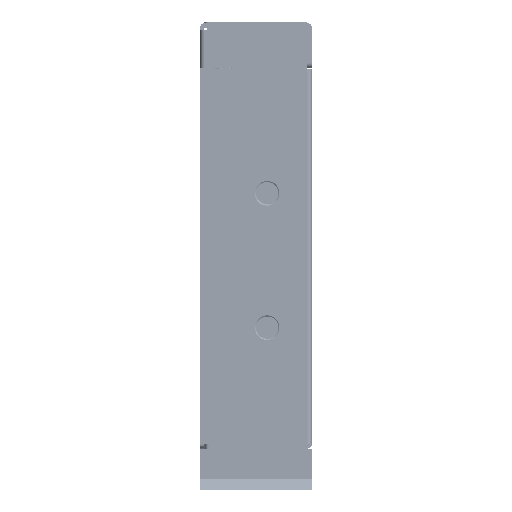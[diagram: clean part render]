
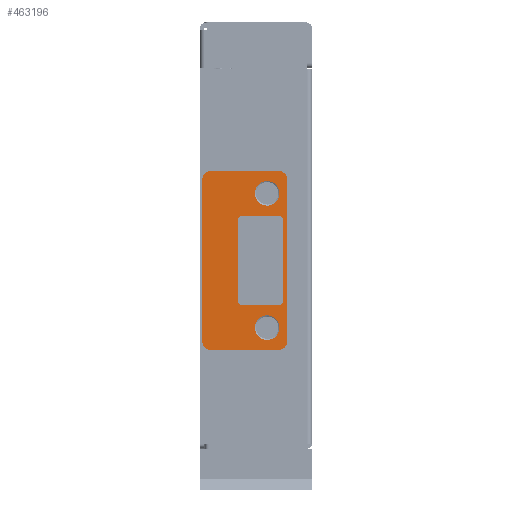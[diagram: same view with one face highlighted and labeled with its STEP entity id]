
A CAD part, front view. The second image highlights one B-rep face of the part: STEP entity #463196.
In plain terms, the highlighted planar face has unit normal (0, -1, 0) as drawn and (0, 0, 1) by its records, which use the part's own axes.
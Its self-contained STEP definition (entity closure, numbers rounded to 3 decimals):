
#117 = AXIS2_PLACEMENT_3D ( 'NONE', #88050, #365674, #202806 ) ;
#10916 = DIRECTION ( 'NONE',  ( 0., 0., 1. ) ) ;
#15012 = EDGE_CURVE ( 'NONE', #707083, #476041, #258553, .T. ) ;
#22919 = ORIENTED_EDGE ( 'NONE', *, *, #244996, .T. ) ;
#26027 = CARTESIAN_POINT ( 'NONE',  ( 2., 17., 0.8 ) ) ;
#27660 = AXIS2_PLACEMENT_3D ( 'NONE', #662685, #215545, #367458 ) ;
#33598 = VECTOR ( 'NONE', #682688, 1000. ) ;
#40644 = AXIS2_PLACEMENT_3D ( 'NONE', #43470, #365702, #590934 ) ;
#40957 = VECTOR ( 'NONE', #305702, 1000. ) ;
#43470 = CARTESIAN_POINT ( 'NONE',  ( 35., 14.5, 0.8 ) ) ;
#45511 = DIRECTION ( 'NONE',  ( 1., 0., 0. ) ) ;
#46076 = VERTEX_POINT ( 'NONE', #258285 ) ;
#47215 = CARTESIAN_POINT ( 'NONE',  ( 32.25, 14.5, 0.8 ) ) ;
#59556 = DIRECTION ( 'NONE',  ( 0., 0., 1. ) ) ;
#62990 = AXIS2_PLACEMENT_3D ( 'NONE', #26027, #473581, #137047 ) ;
#64138 = AXIS2_PLACEMENT_3D ( 'NONE', #264272, #260624, #604139 ) ;
#64777 = ORIENTED_EDGE ( 'NONE', *, *, #237102, .F. ) ;
#72363 = CARTESIAN_POINT ( 'NONE',  ( 2., 19., 0.8 ) ) ;
#81652 = AXIS2_PLACEMENT_3D ( 'NONE', #671808, #564685, #398464 ) ;
#86364 = CIRCLE ( 'NONE', #275471, 2. ) ;
#88050 = CARTESIAN_POINT ( 'NONE',  ( 2., 2., 0.8 ) ) ;
#92568 = CARTESIAN_POINT ( 'NONE',  ( 2., 0., 0.8 ) ) ;
#109904 = LINE ( 'NONE', #512861, #33598 ) ;
#110564 = CIRCLE ( 'NONE', #27660, 2.75 ) ;
#123076 = AXIS2_PLACEMENT_3D ( 'NONE', #510677, #59556, #296160 ) ;
#123547 = CIRCLE ( 'NONE', #40644, 2.75 ) ;
#128102 = EDGE_CURVE ( 'NONE', #285777, #220700, #359201, .T. ) ;
#134759 = CIRCLE ( 'NONE', #64138, 2. ) ;
#137047 = DIRECTION ( 'NONE',  ( -1., 0., 0. ) ) ;
#141797 = ORIENTED_EDGE ( 'NONE', *, *, #332418, .T. ) ;
#177594 = CARTESIAN_POINT ( 'NONE',  ( 2., 2., 0.8 ) ) ;
#189044 = DIRECTION ( 'NONE',  ( 0., -1., 0. ) ) ;
#194104 = VERTEX_POINT ( 'NONE', #249356 ) ;
#195494 = CARTESIAN_POINT ( 'NONE',  ( 37.75, 14.5, 0.8 ) ) ;
#198167 = ORIENTED_EDGE ( 'NONE', *, *, #331561, .T. ) ;
#201884 = EDGE_CURVE ( 'NONE', #367527, #707083, #109904, .T. ) ;
#202806 = DIRECTION ( 'NONE',  ( 0., -1., 0. ) ) ;
#202965 = LINE ( 'NONE', #598349, #565501 ) ;
#215545 = DIRECTION ( 'NONE',  ( 0., 0., 1. ) ) ;
#220700 = VERTEX_POINT ( 'NONE', #509956 ) ;
#221521 = VERTEX_POINT ( 'NONE', #195494 ) ;
#228905 = VERTEX_POINT ( 'NONE', #92568 ) ;
#237102 = EDGE_CURVE ( 'NONE', #194104, #46076, #583868, .T. ) ;
#244996 = EDGE_CURVE ( 'NONE', #476041, #675870, #202965, .T. ) ;
#249356 = CARTESIAN_POINT ( 'NONE',  ( 2.25, 14.5, 0.8 ) ) ;
#258285 = CARTESIAN_POINT ( 'NONE',  ( 7.75, 14.5, 0.8 ) ) ;
#258553 = CIRCLE ( 'NONE', #81652, 2. ) ;
#260624 = DIRECTION ( 'NONE',  ( 0., 0., 1. ) ) ;
#264272 = CARTESIAN_POINT ( 'NONE',  ( 38., 2., 0.8 ) ) ;
#275471 = AXIS2_PLACEMENT_3D ( 'NONE', #177594, #10916, #514002 ) ;
#285777 = VERTEX_POINT ( 'NONE', #522706 ) ;
#294922 = ORIENTED_EDGE ( 'NONE', *, *, #201884, .T. ) ;
#296160 = DIRECTION ( 'NONE',  ( 1., 0., 0. ) ) ;
#305702 = DIRECTION ( 'NONE',  ( 1., 0., 0. ) ) ;
#312110 = CIRCLE ( 'NONE', #724991, 2.75 ) ;
#321258 = DIRECTION ( 'NONE',  ( -1., 0., 0. ) ) ;
#323730 = EDGE_CURVE ( 'NONE', #46076, #194104, #312110, .T. ) ;
#331561 = EDGE_CURVE ( 'NONE', #228905, #338861, #420290, .T. ) ;
#332418 = EDGE_CURVE ( 'NONE', #675870, #285777, #665098, .T. ) ;
#337684 = ORIENTED_EDGE ( 'NONE', *, *, #513922, .T. ) ;
#337790 = DIRECTION ( 'NONE',  ( 0., 0., 1. ) ) ;
#338861 = VERTEX_POINT ( 'NONE', #551180 ) ;
#341734 = ORIENTED_EDGE ( 'NONE', *, *, #601900, .T. ) ;
#359201 = LINE ( 'NONE', #466363, #574638 ) ;
#365674 = DIRECTION ( 'NONE',  ( 0., 0., -1. ) ) ;
#365702 = DIRECTION ( 'NONE',  ( 0., 0., 1. ) ) ;
#366706 = ORIENTED_EDGE ( 'NONE', *, *, #705520, .F. ) ;
#367458 = DIRECTION ( 'NONE',  ( 1., 0., 0. ) ) ;
#367527 = VERTEX_POINT ( 'NONE', #473844 ) ;
#379533 = EDGE_LOOP ( 'NONE', ( #341734, #198167, #337684, #294922, #391489, #22919, #141797, #663562 ) ) ;
#382084 = EDGE_LOOP ( 'NONE', ( #366706, #672683 ) ) ;
#391489 = ORIENTED_EDGE ( 'NONE', *, *, #15012, .T. ) ;
#398464 = DIRECTION ( 'NONE',  ( -1., 0., 0. ) ) ;
#409316 = CARTESIAN_POINT ( 'NONE',  ( 40., 17., 0.8 ) ) ;
#420290 = LINE ( 'NONE', #693705, #40957 ) ;
#455569 = ORIENTED_EDGE ( 'NONE', *, *, #323730, .F. ) ;
#463196 = ADVANCED_FACE ( 'NONE', ( #594561, #709045, #649953 ), #480080, .F. ) ;
#466363 = CARTESIAN_POINT ( 'NONE',  ( 0., 2., 0.8 ) ) ;
#473581 = DIRECTION ( 'NONE',  ( 0., 0., 1. ) ) ;
#473844 = CARTESIAN_POINT ( 'NONE',  ( 40., 2., 0.8 ) ) ;
#476041 = VERTEX_POINT ( 'NONE', #482083 ) ;
#480080 = PLANE ( 'NONE',  #117 ) ;
#482083 = CARTESIAN_POINT ( 'NONE',  ( 38., 19., 0.8 ) ) ;
#498952 = VERTEX_POINT ( 'NONE', #47215 ) ;
#500420 = CARTESIAN_POINT ( 'NONE',  ( 5., 14.5, 0.8 ) ) ;
#509956 = CARTESIAN_POINT ( 'NONE',  ( 0., 2., 0.8 ) ) ;
#510677 = CARTESIAN_POINT ( 'NONE',  ( 5., 14.5, 0.8 ) ) ;
#512861 = CARTESIAN_POINT ( 'NONE',  ( 40., 2., 0.8 ) ) ;
#513922 = EDGE_CURVE ( 'NONE', #338861, #367527, #134759, .T. ) ;
#514002 = DIRECTION ( 'NONE',  ( -1., 0., 0. ) ) ;
#522706 = CARTESIAN_POINT ( 'NONE',  ( 0., 17., 0.8 ) ) ;
#551180 = CARTESIAN_POINT ( 'NONE',  ( 38., 0., 0.8 ) ) ;
#564685 = DIRECTION ( 'NONE',  ( 0., 0., 1. ) ) ;
#565501 = VECTOR ( 'NONE', #321258, 1000. ) ;
#574638 = VECTOR ( 'NONE', #189044, 1000. ) ;
#583868 = CIRCLE ( 'NONE', #123076, 2.75 ) ;
#590934 = DIRECTION ( 'NONE',  ( 1., 0., 0. ) ) ;
#594561 = FACE_BOUND ( 'NONE', #647616, .T. ) ;
#598349 = CARTESIAN_POINT ( 'NONE',  ( 2., 19., 0.8 ) ) ;
#601900 = EDGE_CURVE ( 'NONE', #220700, #228905, #86364, .T. ) ;
#604139 = DIRECTION ( 'NONE',  ( 1., 0., 0. ) ) ;
#647616 = EDGE_LOOP ( 'NONE', ( #455569, #64777 ) ) ;
#649953 = FACE_OUTER_BOUND ( 'NONE', #379533, .T. ) ;
#662685 = CARTESIAN_POINT ( 'NONE',  ( 35., 14.5, 0.8 ) ) ;
#663562 = ORIENTED_EDGE ( 'NONE', *, *, #128102, .T. ) ;
#665098 = CIRCLE ( 'NONE', #62990, 2. ) ;
#671808 = CARTESIAN_POINT ( 'NONE',  ( 38., 17., 0.8 ) ) ;
#672683 = ORIENTED_EDGE ( 'NONE', *, *, #694106, .F. ) ;
#675870 = VERTEX_POINT ( 'NONE', #72363 ) ;
#682688 = DIRECTION ( 'NONE',  ( 0., 1., 0. ) ) ;
#693705 = CARTESIAN_POINT ( 'NONE',  ( 2., 0., 0.8 ) ) ;
#694106 = EDGE_CURVE ( 'NONE', #498952, #221521, #123547, .T. ) ;
#705520 = EDGE_CURVE ( 'NONE', #221521, #498952, #110564, .T. ) ;
#707083 = VERTEX_POINT ( 'NONE', #409316 ) ;
#709045 = FACE_BOUND ( 'NONE', #382084, .T. ) ;
#724991 = AXIS2_PLACEMENT_3D ( 'NONE', #500420, #337790, #45511 ) ;
